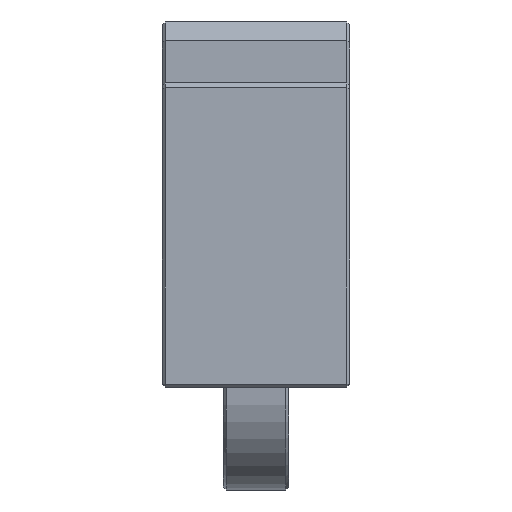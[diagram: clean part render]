
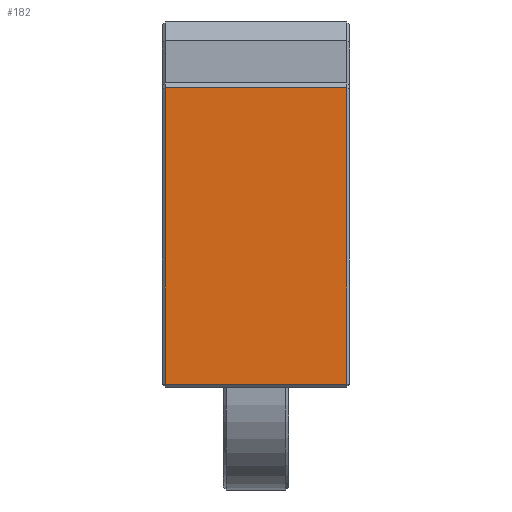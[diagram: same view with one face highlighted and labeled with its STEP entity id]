
A CAD part, left-side view. The second image highlights one B-rep face of the part: STEP entity #182.
In plain terms, the highlighted planar face has unit normal (-1, 0, 0).
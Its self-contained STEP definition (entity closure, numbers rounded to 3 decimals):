
#182 = ADVANCED_FACE( '', ( #609 ), #610, .T. );
#609 = FACE_OUTER_BOUND( '', #1480, .T. );
#610 = PLANE( '', #1481 );
#1480 = EDGE_LOOP( '', ( #2513, #2514, #2515, #2516 ) );
#1481 = AXIS2_PLACEMENT_3D( '', #2517, #2518, #2519 );
#2513 = ORIENTED_EDGE( '', *, *, #5732, .T. );
#2514 = ORIENTED_EDGE( '', *, *, #5733, .T. );
#2515 = ORIENTED_EDGE( '', *, *, #5734, .T. );
#2516 = ORIENTED_EDGE( '', *, *, #5735, .T. );
#2517 = CARTESIAN_POINT( '', ( -30., -10., 0. ) );
#2518 = DIRECTION( '', ( -1., 0., 0. ) );
#2519 = DIRECTION( '', ( 0., 0., 1. ) );
#5732 = EDGE_CURVE( '', #6931, #6932, #6933, .T. );
#5733 = EDGE_CURVE( '', #6932, #6934, #6935, .T. );
#5734 = EDGE_CURVE( '', #6934, #6936, #6937, .T. );
#5735 = EDGE_CURVE( '', #6936, #6931, #6938, .T. );
#6931 = VERTEX_POINT( '', #8741 );
#6932 = VERTEX_POINT( '', #8742 );
#6933 = LINE( '', #8743, #8744 );
#6934 = VERTEX_POINT( '', #8745 );
#6935 = LINE( '', #8746, #8747 );
#6936 = VERTEX_POINT( '', #8748 );
#6937 = LINE( '', #8749, #8750 );
#6938 = LINE( '', #8751, #8752 );
#8741 = CARTESIAN_POINT( '', ( -30., -9.7, 32. ) );
#8742 = CARTESIAN_POINT( '', ( -30., 9.7, 32. ) );
#8743 = CARTESIAN_POINT( '', ( -30., -10., 32. ) );
#8744 = VECTOR( '', #11592, 1000. );
#8745 = CARTESIAN_POINT( '', ( -30., 9.7, 0.3 ) );
#8746 = CARTESIAN_POINT( '', ( -30., 9.7, 0. ) );
#8747 = VECTOR( '', #11593, 1000. );
#8748 = CARTESIAN_POINT( '', ( -30., -9.7, 0.3 ) );
#8749 = CARTESIAN_POINT( '', ( -30., -10., 0.3 ) );
#8750 = VECTOR( '', #11594, 1000. );
#8751 = CARTESIAN_POINT( '', ( -30., -9.7, 0. ) );
#8752 = VECTOR( '', #11595, 1000. );
#11592 = DIRECTION( '', ( 0., 1., 0. ) );
#11593 = DIRECTION( '', ( 0., 0., -1. ) );
#11594 = DIRECTION( '', ( 0., -1., 0. ) );
#11595 = DIRECTION( '', ( 0., 0., 1. ) );
